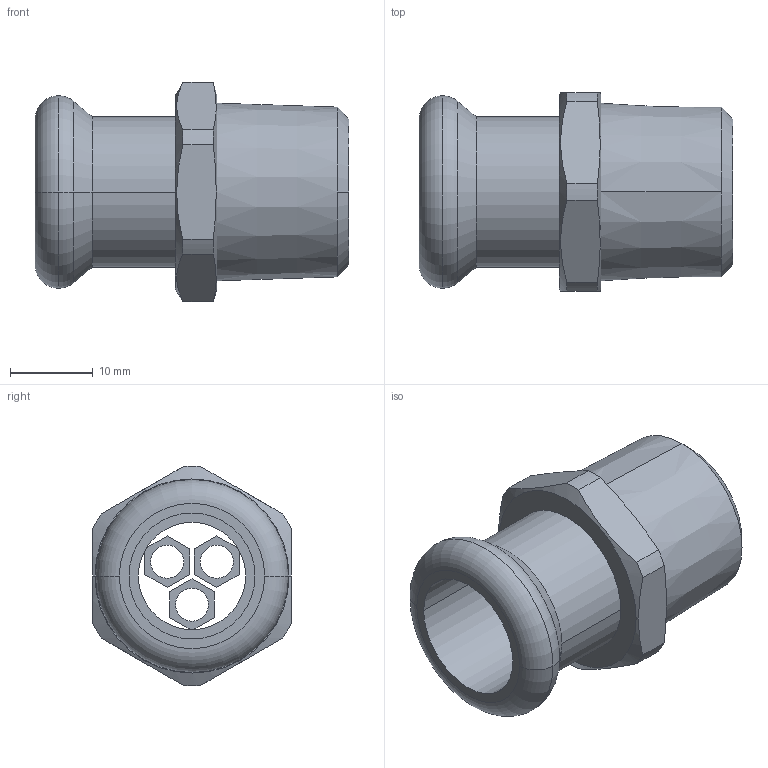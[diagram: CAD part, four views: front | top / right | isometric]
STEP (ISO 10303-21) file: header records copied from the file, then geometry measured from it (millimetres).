
FILE_DESCRIPTION(('OneSpaceDesigner STEP Export'),'2;1');
FILE_NAME('R2705 15xR1-2.stp','2010-06-09T10:24:15',(''),(''),'OneSpace Designer STEP processor for AP214 (Solid Model)','OneSpace Modeling 15.00A 14-Mar-2007 (C) CoCreate Software GmbH','');
FILE_SCHEMA(('AUTOMOTIVE_DESIGN { 1 0 10303 214 1 1 1 1 }'));
Length unit declared in the file: millimetre
Products named in the file (2): R2705_15xR1-2
Assembly tree (1 placements, depth 2):
  R2705_15xR1-2
    R2705_15xR1-2
Bounding box: 38 x 24 x 26.59 mm (x, y, z)
Volume: 6649.6 mm3; surface area: 5266.8 mm2
Topology: 1 solids, 1 shells, 76 faces, 197 edges, 130 vertices
Faces by surface type: plane 39, cylinder 23, cone 10, torus 4
Entity records: 2835 total; most frequent: CARTESIAN_POINT 1058, ORIENTED_EDGE 394, DIRECTION 309, EDGE_CURVE 197, VERTEX_POINT 130, VECTOR 105, LINE 105, AXIS2_PLACEMENT_3D 102
